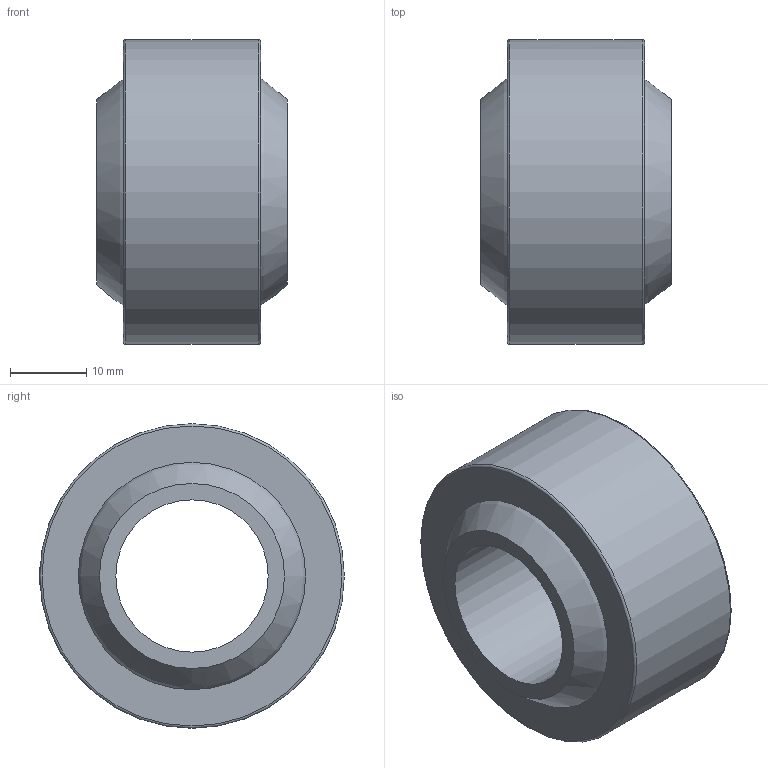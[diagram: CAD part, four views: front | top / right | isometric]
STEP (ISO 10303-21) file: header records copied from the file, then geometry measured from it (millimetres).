
FILE_DESCRIPTION( ( 'STEP AP203' ), '1' );
FILE_NAME( 'C:/Temp/Ganter_Step_05_03_2020/data/3_6/gn_648_8/gn_648_8_n/Ball joint GN 648.8-20-40-N.stp', '2020-03-12T14:14:26', ( 'License CC BY-ND 4.0' ), ( 'CADENAS' ), ' ', 'PARTsolutions', ' ' );
FILE_SCHEMA( ( 'CONFIG_CONTROL_DESIGN' ) );
Length unit declared in the file: millimetre
Products named in the file (3): Ball joint GN 648.8-20-40-N; _Ball joint GN 648.8-20-40-N-2; _Ball joint GN 648.8-20-40-N-1
Assembly tree (2 placements, depth 2):
  Ball joint GN 648.8-20-40-N
    _Ball joint GN 648.8-20-40-N-2
    _Ball joint GN 648.8-20-40-N-1
Bounding box: 25 x 40 x 40 mm (x, y, z)
Volume: 18867.2 mm3; surface area: 9932 mm2
Topology: 2 solids, 2 shells, 11 faces, 20 edges, 13 vertices
Faces by surface type: plane 4, cylinder 3, sphere 2, torus 2
Full cylindrical faces by diameter (mm): 2.3 x1, 20 x1, 40 x1
Entity records: 384 total; most frequent: CARTESIAN_POINT 71, DIRECTION 50, AXIS2_PLACEMENT_3D 25, EDGE_LOOP 24, ORIENTED_EDGE 24, FACE_OUTER_BOUND 18, CC_DESIGN_PERSON_AND_ORGANIZATION_ASSIGNMENT 13, EDGE_CURVE 12
